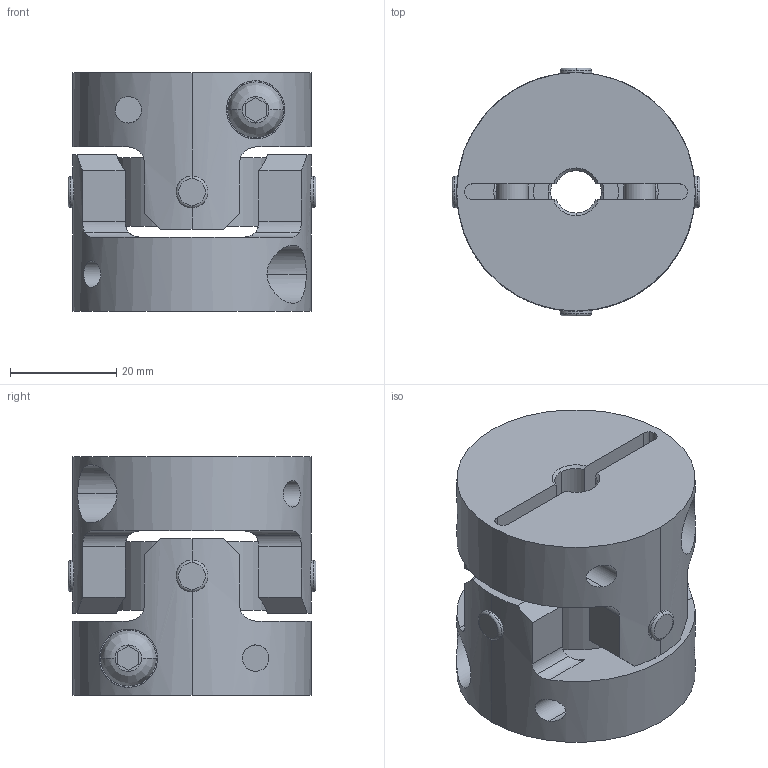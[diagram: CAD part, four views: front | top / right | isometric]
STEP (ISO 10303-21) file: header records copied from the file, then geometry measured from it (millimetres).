
FILE_DESCRIPTION((''),'2;1');
FILE_NAME('UA-45C-8×9.525.stp','2013-11-19T08:44:34',(''),(''),'AutoCAD STEP 2000i','AutoCAD 2000i',', , ');
FILE_SCHEMA(('CONFIG_CONTROL_DESIGN'));
Length unit declared in the file: millimetre
Products named in the file (6): UA-45C-8×8; 忣兜1; UA-4502-D08-1; BTN-M6; UA-4502-D08; UA45-SEN
Assembly tree (6 placements, depth 3):
  UA-45C-8×8
    忣兜1
    UA-4502-D08-1
      BTN-M6
    UA-4502-D08
      BTN-M6
    UA45-SEN
Bounding box: 46.73 x 46.73 x 45 mm (x, y, z)
Volume: 51466.6 mm3; surface area: 20349.8 mm2
Topology: 1 solids, 1 shells, 206 faces, 554 edges, 364 vertices
Faces by surface type: cylinder 96, plane 78, cone 16, bspline 8, torus 8
Entity records: 8523 total; most frequent: CARTESIAN_POINT 3207, ORIENTED_EDGE 1108, DIRECTION 1064, EDGE_CURVE 554, AXIS2_PLACEMENT_3D 409, VERTEX_POINT 364, VECTOR 246, LINE 246
